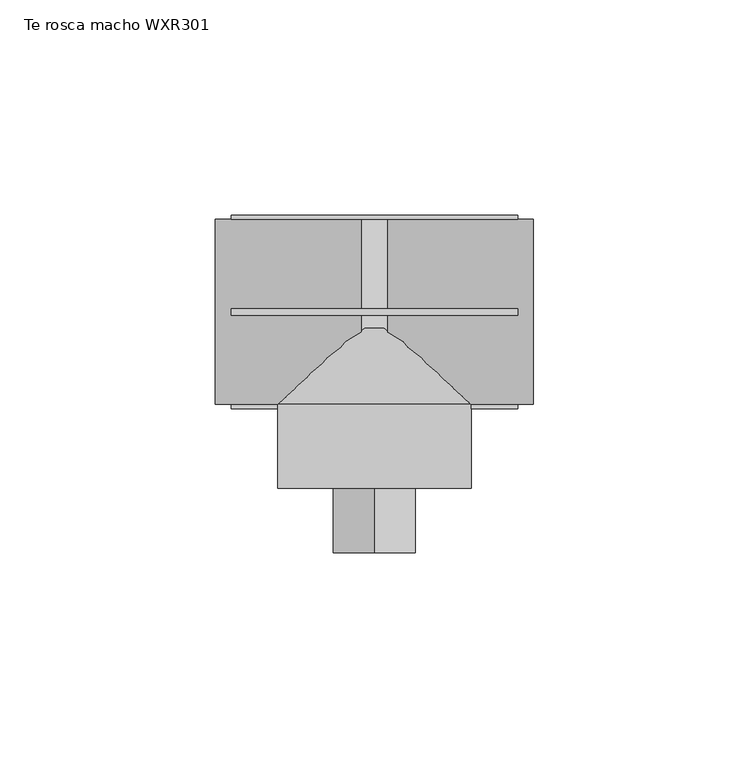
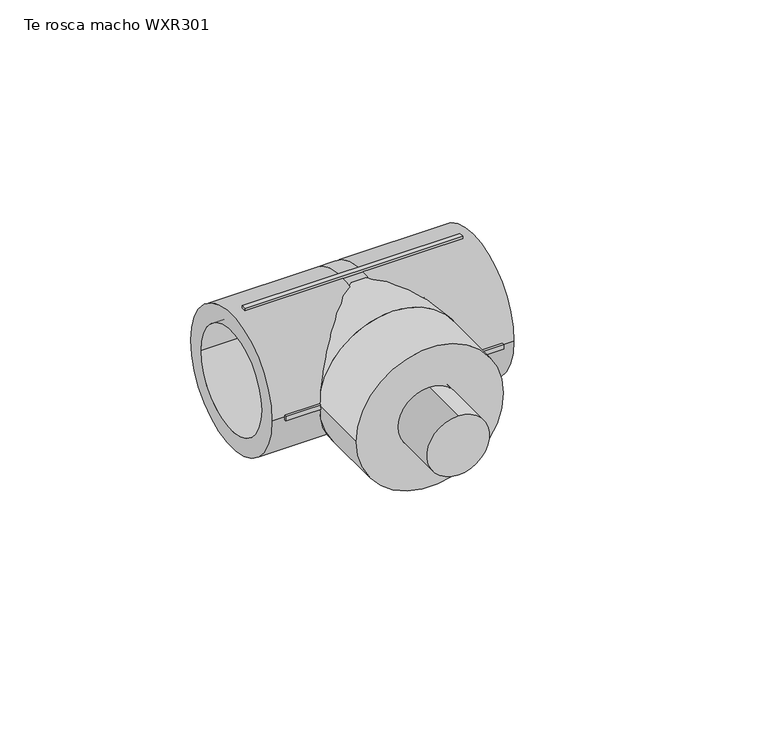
"""IFC4 building model written with IfcOpenShell, lengths in millimetres: pipe fitting geometry, EGB_VASEN_ PPR_Te rosca macho WXR301 : Te rosca macho WXR301."""

import ifcopenshell
import ifcopenshell.guid

model = None  # the IFC model being written
_history = None  # IfcOwnerHistory: only IFC2X3 demands one
_inside = {}  # id of a spatial element -> (the spatial element, [elements in it])
_under = {}  # id of a project, library or spatial element -> (it, [spatial elements below it])
_declared = {}  # id of a project -> (the project, [libraries it declares])
_typed = {}  # id of a type object -> (the type object, [elements of that type])
_made_of = {}  # id of a material, layer set ... -> (it, [elements and type objects made of it])


def new_model(schema):
    """Start an empty IFC model of exactly this schema.

    Asked for "IFC4X3", IfcOpenShell would pick the latest addendum, in which some entities
    have other attributes; the version numbers below select the first issue.
    IFC2X3 requires an IfcOwnerHistory on every rooted entity: one is made here for all.
    """
    global model, _history
    if schema == "IFC4X3":
        model = ifcopenshell.file(schema_version=(4, 3, 0, 0))
    else:
        model = ifcopenshell.file(schema=schema)
    _inside.clear()
    _under.clear()
    _declared.clear()
    _typed.clear()
    _made_of.clear()
    _history = None
    if model.schema == "IFC2X3":
        org = make("IfcOrganization", Name="unknown")
        user = make(
            "IfcPersonAndOrganization",
            ThePerson=make("IfcPerson", FamilyName="unknown"),
            TheOrganization=org,
        )
        app = make(
            "IfcApplication",
            ApplicationDeveloper=org,
            Version="unknown",
            ApplicationFullName="unknown",
            ApplicationIdentifier="unknown",
        )
        _history = make(
            "IfcOwnerHistory",
            OwningUser=user,
            OwningApplication=app,
            ChangeAction="ADDED",
            CreationDate=0,
        )
    return model


def make(cls, **values):
    """One entity of the class cls with the attributes given. An attribute that is None is left unset."""
    return model.create_entity(
        cls, **{name: value for name, value in values.items() if value is not None}
    )


def rooted(cls, **values):
    """An entity with a GlobalId (a new one), such as an element, a storey or a relation."""
    return make(cls, GlobalId=ifcopenshell.guid.new(), OwnerHistory=_history, **values)


def si_unit(unit_type, name, prefix=None):
    """IfcSIUnit, for example si_unit("LENGTHUNIT", "METRE", prefix="MILLI")."""
    return make("IfcSIUnit", UnitType=unit_type, Prefix=prefix, Name=name)


def assignment(units):
    """IfcUnitAssignment: the units of a project."""
    return None if units is None else make("IfcUnitAssignment", Units=units)


def point(xyz):
    """IfcCartesianPoint."""
    return None if xyz is None else make("IfcCartesianPoint", Coordinates=xyz)


def direction(xyz):
    """IfcDirection."""
    return None if xyz is None else make("IfcDirection", DirectionRatios=xyz)


def frame(location, z_axis=None, x_axis=None):
    """IfcAxis2Placement3D, a coordinate frame: its origin and axes. An axis left out is left unset."""
    return make(
        "IfcAxis2Placement3D",
        Location=point(location),
        Axis=direction(z_axis),
        RefDirection=direction(x_axis),
    )


def frame_2d(location, x_axis=None):
    """IfcAxis2Placement2D, a coordinate frame in the plane: its origin and x axis."""
    return make(
        "IfcAxis2Placement2D", Location=point(location), RefDirection=direction(x_axis)
    )


def origin():
    """The frame at (0, 0, 0) with its axes left unset."""
    return frame((0.0, 0.0, 0.0))


def origin_2d():
    """The frame at (0, 0) in the plane with its x axis left unset."""
    return frame_2d((0.0, 0.0))


def place(relative_to, where):
    """IfcLocalPlacement: puts the frame where relative to a parent placement (None: the world)."""
    return make(
        "IfcLocalPlacement", PlacementRelTo=relative_to, RelativePlacement=where
    )


def context(
    kind, dimensions, precision=None, world=None, true_north=None, identifier=None
):
    """IfcGeometricRepresentationContext, for example the 3D "Model" context."""
    return make(
        "IfcGeometricRepresentationContext",
        ContextIdentifier=identifier,
        ContextType=kind,
        CoordinateSpaceDimension=dimensions,
        Precision=precision,
        WorldCoordinateSystem=world,
        TrueNorth=true_north,
    )


def project(units=None, contexts=None):
    """IfcProject with its units and contexts."""
    return rooted(
        "IfcProject",
        Name="project",
        RepresentationContexts=contexts,
        UnitsInContext=assignment(units),
    )


def spatial(cls, under=None, at=None, **own):
    """A site, building, storey or space (cls), placed at a placement, below another one or the project."""
    s = rooted(cls, ObjectPlacement=at, **own)
    if under is not None:
        _under.setdefault(under.id(), (under, []))[1].append(s)
    return s


def polyline(points):
    """IfcPolyline through the points."""
    return make("IfcPolyline", Points=[point(p) for p in points])


def circle_curve(where, radius):
    """IfcCircle in the frame where."""
    return make("IfcCircle", Position=where, Radius=radius)


def trimmed(basis, trim1, trim2, sense, master):
    """IfcTrimmedCurve: the piece of a basis curve between two trims."""
    return make(
        "IfcTrimmedCurve",
        BasisCurve=basis,
        Trim1=trim1,
        Trim2=trim2,
        SenseAgreement=sense,
        MasterRepresentation=master,
    )


def segment(curve, same_sense, transition):
    """IfcCompositeCurveSegment."""
    return make(
        "IfcCompositeCurveSegment",
        Transition=transition,
        SameSense=same_sense,
        ParentCurve=curve,
    )


def composite_curve(segments, self_intersect=None):
    """IfcCompositeCurve: segments joined end to end."""
    return make("IfcCompositeCurve", Segments=segments, SelfIntersect=self_intersect)


def outline(outer, holes=None, kind="AREA"):
    """IfcArbitraryClosedProfileDef: a profile drawn as a closed curve; with holes, ...WithVoids."""
    if holes is None:
        return make("IfcArbitraryClosedProfileDef", ProfileType=kind, OuterCurve=outer)
    return make(
        "IfcArbitraryProfileDefWithVoids",
        ProfileType=kind,
        OuterCurve=outer,
        InnerCurves=holes,
    )


def extrude(swept, where, along, depth):
    """IfcExtrudedAreaSolid: the profile swept, set in the frame where, extruded along a direction by depth."""
    return make(
        "IfcExtrudedAreaSolid",
        SweptArea=swept,
        Position=where,
        ExtrudedDirection=direction(along),
        Depth=depth,
    )


def shape(context_of_items, identifier, shape_type, items):
    """IfcShapeRepresentation: the items that make up one representation, for example the "Body"."""
    return make(
        "IfcShapeRepresentation",
        ContextOfItems=context_of_items,
        RepresentationIdentifier=identifier,
        RepresentationType=shape_type,
        Items=items,
    )


def source(mapping_origin, context_of_items, identifier, shape_type, items):
    """IfcRepresentationMap: a shape defined once, which mapped items show again and again."""
    return make(
        "IfcRepresentationMap",
        MappingOrigin=mapping_origin,
        MappedRepresentation=shape(context_of_items, identifier, shape_type, items),
    )


def transform(
    local_origin,
    x_axis=None,
    y_axis=None,
    z_axis=None,
    scale=None,
    scale2=None,
    scale3=None,
    uniform=True,
):
    """IfcCartesianTransformationOperator3D, or its non-uniform kind. x_axis, y_axis, z_axis: its Axis1, 2, 3."""
    if uniform:
        return make(
            "IfcCartesianTransformationOperator3D",
            Axis1=direction(x_axis),
            Axis2=direction(y_axis),
            LocalOrigin=point(local_origin),
            Scale=scale,
            Axis3=direction(z_axis),
        )
    return make(
        "IfcCartesianTransformationOperator3DnonUniform",
        Axis1=direction(x_axis),
        Axis2=direction(y_axis),
        LocalOrigin=point(local_origin),
        Scale=scale,
        Axis3=direction(z_axis),
        Scale2=scale2,
        Scale3=scale3,
    )


def mapped(mapping_source, mapping_target):
    """IfcMappedItem: shows the shape of a source again, moved by a transform."""
    return make(
        "IfcMappedItem", MappingSource=mapping_source, MappingTarget=mapping_target
    )


def made_of(thing, what):
    """Note that an element or type object is made of a material, layer set ...; save() writes the relation."""
    if what is not None:
        _made_of.setdefault(what.id(), (what, []))[1].append(thing)
    return thing


def element(
    cls,
    number,
    at=None,
    inside=None,
    cuts=None,
    type_object=None,
    material=None,
    context=None,
    identifier="Body",
    shape_type=None,
    held_by="IfcProductDefinitionShape",
    body=None,
    shapes=None,
    **own,
):
    """One element of the class cls, such as IfcWall. Its Tag is "e" and its number.

    at: its placement. inside: the storey or other place that contains it. cuts: it is an
    opening in that element (IfcRelVoidsElement). A single representation is given by context,
    identifier, shape_type and body (its items); several are given by shapes. held_by: the class
    of the entity that holds the representations. save() writes the other relations.
    """
    e = rooted(cls, Tag="e%d" % number, ObjectPlacement=at, **own)
    if body is not None:
        shapes = [shape(context, identifier, shape_type, body)]
    if shapes is not None:
        e.Representation = make(held_by, Representations=shapes)
    if inside is not None:
        _inside.setdefault(inside.id(), (inside, []))[1].append(e)
    if cuts is not None:
        rooted(
            "IfcRelVoidsElement", RelatingBuildingElement=cuts, RelatedOpeningElement=e
        )
    if type_object is not None:
        _typed.setdefault(type_object.id(), (type_object, []))[1].append(e)
    return made_of(e, material)


def aggregate(whole, parts):
    """IfcRelAggregates: a whole, such as a stair, and the parts it consists of."""
    return rooted("IfcRelAggregates", RelatingObject=whole, RelatedObjects=parts)


def save(model, path):
    """Write the relations noted so far, then the file.

    IfcRelAggregates (storeys below a building ...), IfcRelContainedInSpatialStructure (elements
    in a storey), IfcRelDefinesByType, IfcRelAssociatesMaterial and IfcRelDeclares: one each for
    every whole, place, type object, material and project.
    """
    for whole, parts in _under.values():
        aggregate(whole, parts)
    for where, things in _inside.values():
        rooted(
            "IfcRelContainedInSpatialStructure",
            RelatedElements=things,
            RelatingStructure=where,
        )
    for kind, things in _typed.values():
        rooted("IfcRelDefinesByType", RelatedObjects=things, RelatingType=kind)
    for what, things in _made_of.values():
        rooted("IfcRelAssociatesMaterial", RelatedObjects=things, RelatingMaterial=what)
    for by, libraries in _declared.values():
        rooted("IfcRelDeclares", RelatingContext=by, RelatedDefinitions=libraries)
    model.write(path)


def plane_surface(at):
    """IfcPlane: the flat surface through the origin of the frame at, square to its z axis."""
    return make("IfcPlane", Position=at)


def cylinder_surface(at, radius):
    """IfcCylindricalSurface: all points at the distance radius from the z axis of the frame at."""
    return make("IfcCylindricalSurface", Position=at, Radius=radius)


def revolved_surface(curve, axis_point, axis_direction):
    """IfcSurfaceOfRevolution: the curve turned about the line through axis_point along axis_direction."""
    return make(
        "IfcSurfaceOfRevolution",
        SweptCurve=make("IfcArbitraryOpenProfileDef", ProfileType="CURVE", Curve=curve),
        AxisPosition=make("IfcAxis1Placement", Location=point(axis_point), Axis=direction(axis_direction)),
    )


def advanced_brep(points, edges, surfaces, faces):
    """IfcAdvancedBrep: a solid bounded by faces that lie on surfaces and meet in shared edges.

    An edge is (start, end): straight between two places in points (the first is 0);
    or (start, end, curve); or (start, end, curve, False) where it runs against its curve.
    A face is (place in surfaces, loops), or (place, loops, False) where it looks against
    its surface's normal. A loop lists edges by number (the first is 1), with a minus sign
    where the edge is run from its end to its start. The first loop is the outer one.
    """
    corners = [point(p) for p in points]
    vertices = [make("IfcVertexPoint", VertexGeometry=c) for c in corners]
    made = []
    for start, end, *more in edges:
        made.append(
            make(
                "IfcEdgeCurve",
                EdgeStart=vertices[start],
                EdgeEnd=vertices[end],
                EdgeGeometry=more[0] if more else make("IfcPolyline", Points=[corners[start], corners[end]]),
                SameSense=more[1] if len(more) > 1 else True,
            )
        )
    hull = []
    for where, loops, *sense in faces:
        bounds = []
        for j, loop in enumerate(loops):
            ring = [make("IfcOrientedEdge", EdgeElement=made[abs(k) - 1], Orientation=k > 0) for k in loop]
            bounds.append(
                make(
                    "IfcFaceOuterBound" if j == 0 else "IfcFaceBound",
                    Bound=make("IfcEdgeLoop", EdgeList=ring),
                    Orientation=True,
                )
            )
        hull.append(make("IfcAdvancedFace", Bounds=bounds, FaceSurface=surfaces[where], SameSense=sense[0] if sense else True))
    return make("IfcAdvancedBrep", Outer=make("IfcClosedShell", CfsFaces=hull))


def te_rosca_macho_wxr301_3f0b292e(model_context):
    return source(origin(), model_context, "Body", "SolidModel", [
        extrude(outline(composite_curve([segment(trimmed(circle_curve(origin_2d(), 9.525), [point((-9.525, 0.0))], [point((9.525, 0.0))], False, "CARTESIAN"), True, "CONTINUOUS"), segment(trimmed(circle_curve(origin_2d(), 9.525), [point((9.525, 0.0))], [point((-9.525, 0.0))], False, "CARTESIAN"), True, "CONTINUOUS")], self_intersect=False)), frame((0.0, -56.0, 0.0), z_axis=(0.0, 1.0, 0.0), x_axis=(0.0, 0.0, 1.0)), (0.0, 0.0, 1.0), 33.5),
        advanced_brep(
        [(2.96, -16.0, 0.0), (2.96, 16.0, 0.0), (-2.96, 16.0, 0.0), (-2.96, -16.0, 0.0), (-2.96, 21.5, 0.0), (2.96, 21.5, 0.0), (2.96, -21.5, 0.0), (-2.96, -21.5, 0.0), (37.0, -21.5, 0.0), (37.0, 21.5, 0.0), (37.0, -16.0, 0.0), (37.0, 16.0, 0.0), (-37.0, -21.5, 0.0), (-37.0, 21.5, 0.0), (-37.0, -16.0, 0.0), (-37.0, 16.0, 0.0)],
        [
            (0, 1, circle_curve(frame((2.96, 0.0, 0.0), z_axis=(1.0, 0.0, 0.0), x_axis=(0.0, 1.0, 0.0)), 16.0)),
            (1, 0, circle_curve(frame((2.96, 0.0, 0.0), z_axis=(1.0, 0.0, 0.0), x_axis=(0.0, 1.0, 0.0)), 16.0)),
            (2, 3, circle_curve(frame((-2.96, 0.0, 0.0), z_axis=(-1.0, 0.0, 0.0), x_axis=(0.0, 1.0, 0.0)), 16.0)),
            (3, 2, circle_curve(frame((-2.96, 0.0, 0.0), z_axis=(-1.0, 0.0, 0.0), x_axis=(0.0, 1.0, 0.0)), 16.0)),
            (4, 5),
            (5, 6, circle_curve(frame((2.96, 0.0, 0.0), z_axis=(-1.0, 0.0, 0.0), x_axis=(0.0, 0.0, -1.0)), 21.5)),
            (6, 7),
            (7, 4, circle_curve(frame((-2.96, 0.0, 0.0), z_axis=(1.0, 0.0, 0.0), x_axis=(0.0, 0.0, -1.0)), 21.5)),
            (4, 7, circle_curve(frame((-2.96, 0.0, 0.0), z_axis=(1.0, 0.0, 0.0), x_axis=(0.0, 0.0, 1.0)), 21.5)),
            (6, 5, circle_curve(frame((2.96, 0.0, 0.0), z_axis=(-1.0, 0.0, 0.0), x_axis=(0.0, 0.0, 1.0)), 21.5)),
            (8, 9, circle_curve(frame((37.0, 0.0, 0.0), z_axis=(1.0, 0.0, 0.0), x_axis=(0.0, 1.0, 0.0)), 21.5)),
            (9, 8, circle_curve(frame((37.0, 0.0, 0.0), z_axis=(1.0, 0.0, 0.0), x_axis=(0.0, 1.0, 0.0)), 21.5)),
            (10, 11, circle_curve(frame((37.0, 0.0, 0.0), z_axis=(-1.0, 0.0, 0.0), x_axis=(0.0, 1.0, 0.0)), 16.0)),
            (11, 10, circle_curve(frame((37.0, 0.0, 0.0), z_axis=(-1.0, 0.0, 0.0), x_axis=(0.0, 1.0, 0.0)), 16.0)),
            (9, 5),
            (6, 8),
            (11, 1),
            (0, 10),
            (12, 13, circle_curve(frame((-37.0, 0.0, 0.0), z_axis=(-1.0, 0.0, 0.0), x_axis=(0.0, 1.0, 0.0)), 21.5)),
            (13, 12, circle_curve(frame((-37.0, 0.0, 0.0), z_axis=(-1.0, 0.0, 0.0), x_axis=(0.0, 1.0, 0.0)), 21.5)),
            (14, 15, circle_curve(frame((-37.0, 0.0, 0.0), z_axis=(1.0, 0.0, 0.0), x_axis=(0.0, 1.0, 0.0)), 16.0)),
            (15, 14, circle_curve(frame((-37.0, 0.0, 0.0), z_axis=(1.0, 0.0, 0.0), x_axis=(0.0, 1.0, 0.0)), 16.0)),
            (12, 7),
            (4, 13),
            (14, 3),
            (2, 15),
        ],
        [
            plane_surface(frame((2.96, 0.0, 0.0), z_axis=(1.0, 0.0, 0.0), x_axis=(0.0, 0.0, -1.0))),
            plane_surface(frame((-2.96, 0.0, 0.0), z_axis=(-1.0, 0.0, 0.0), x_axis=(0.0, 0.0, -1.0))),
            cylinder_surface(frame((-2.96, 0.0, 0.0), z_axis=(1.0, 0.0, 0.0), x_axis=(0.0, 0.0, -1.0)), 21.5),
            cylinder_surface(frame((-2.96, 0.0, 0.0), z_axis=(1.0, 0.0, 0.0), x_axis=(0.0, 0.0, 1.0)), 21.5),
            plane_surface(frame((37.0, 0.0, 0.0), z_axis=(1.0, 0.0, 0.0), x_axis=(0.0, 0.0, 1.0))),
            cylinder_surface(frame((2.96, 0.0, 0.0), z_axis=(-1.0, 0.0, 0.0), x_axis=(0.0, 1.0, 0.0)), 21.5),
            revolved_surface(polyline([(37.0, 16.0, 0.0), (2.96, 16.0, 0.0)]), (2.96, 0.0, 0.0), (1.0, 0.0, 0.0)),
            plane_surface(frame((-37.0, 0.0, 0.0), z_axis=(-1.0, 0.0, 0.0), x_axis=(0.0, 0.0, 1.0))),
            cylinder_surface(frame((-37.0, 0.0, 0.0), z_axis=(-1.0, 0.0, 0.0), x_axis=(0.0, 1.0, 0.0)), 21.5),
            revolved_surface(polyline([(-2.960000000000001, 16.0, 0.0), (-37.0, 16.0, 0.0)]), (-37.0, 0.0, 0.0), (1.0, 0.0, 0.0)),
        ],
        [
            (0, [[1, 2]]),
            (1, [[3, 4]]),
            (2, [[5, 6, 7, 8]]),
            (3, [[-5, 9, -7, 10]]),
            (4, [[11, 12], [13, 14]]),
            (5, [[-12, 15, -10, 16]]),
            (5, [[-11, -16, -6, -15]]),
            (6, [[-14, 17, -1, 18]]),
            (6, [[-13, -18, -2, -17]]),
            (7, [[19, 20], [21, 22]]),
            (8, [[-19, 23, -9, 24]]),
            (8, [[-20, -24, -8, -23]]),
            (9, [[-21, 25, -3, 26]]),
            (9, [[-22, -26, -4, -25]]),
        ],
    ),
        extrude(outline(composite_curve([segment(trimmed(circle_curve(origin_2d(), 22.5), [point((0.0, 22.5))], [point((0.0, -22.5))], False, "CARTESIAN"), True, "CONTINUOUS"), segment(trimmed(circle_curve(origin_2d(), 22.5), [point((0.0, -22.5))], [point((0.0, 22.5))], False, "CARTESIAN"), True, "CONTINUOUS")], self_intersect=False), holes=[composite_curve([segment(trimmed(circle_curve(origin_2d(), 9.525), [point((0.0, 9.525))], [point((0.0, -9.525))], True, "CARTESIAN"), True, "CONTINUOUS"), segment(trimmed(circle_curve(origin_2d(), 9.525), [point((0.0, -9.525))], [point((0.0, 9.525))], True, "CARTESIAN"), True, "CONTINUOUS")], self_intersect=False)]), frame((0.0, -41.0, 0.0), z_axis=(0.0, 1.0, 0.0), x_axis=(0.0, 0.0, 1.0)), (0.0, 0.0, 1.0), 19.5),
        advanced_brep(
        [(21.5, 0.0, 0.0), (-21.5, 0.0, 0.0), (22.5, -21.5, 0.0), (-22.5, -21.5, 0.0)],
        [
            (0, 1, circle_curve(frame((0.0, 0.0, 0.0), z_axis=(0.0, 1.0, 0.0), x_axis=(1.0, 0.0, 0.0)), 21.5)),
            (1, 0, circle_curve(frame((0.0, 0.0, 0.0), z_axis=(0.0, 1.0, 0.0), x_axis=(-1.0, 0.0, 0.0)), 21.5)),
            (2, 3, circle_curve(frame((0.0, -21.5, 0.0), z_axis=(0.0, -1.0, 0.0), x_axis=(-1.0, 0.0, 0.0)), 22.5)),
            (3, 2, circle_curve(frame((0.0, -21.5, 0.0), z_axis=(0.0, -1.0, 0.0), x_axis=(1.0, 0.0, 0.0)), 22.5)),
            (3, 1),
            (0, 2),
        ],
        [
            plane_surface(frame((0.0, 0.0, 0.0), z_axis=(0.0, 1.0, 0.0), x_axis=(0.0, 0.0, -1.0))),
            plane_surface(frame((0.0, -21.5, 0.0), z_axis=(0.0, -1.0, 0.0), x_axis=(0.0, 0.0, -1.0))),
            revolved_surface(polyline([(21.5, 0.0, 0.0), (22.5, -21.5, 0.0)]), (0.0, 462.25, 0.0), (0.0, -1.0, 0.0)),
            revolved_surface(polyline([(-21.5, 0.0, 0.0), (-22.5, -21.5, 0.0)]), (0.0, 462.25, 0.0), (0.0, -1.0, 0.0)),
        ],
        [
            (0, [[1, 2]]),
            (1, [[3, 4]]),
            (2, [[-4, 5, -1, 6]]),
            (3, [[-3, -6, -2, -5]]),
        ],
    ),
        extrude(outline(polyline([(33.3, 0.75), (33.3, -0.75), (-33.3, -0.75), (-33.3, 0.75), (33.3, 0.75)])), frame((0.0, 0.0, 20.5), z_axis=(0.0, 0.0, 1.0), x_axis=(1.0, 0.0, 0.0)), (0.0, 0.0, 1.0), 2.0),
        extrude(outline(polyline([(33.3, 0.75), (33.3, -0.75), (-33.3, -0.75), (-33.3, 0.75), (33.3, 0.75)])), frame((0.0, 0.0, -22.5), z_axis=(0.0, 0.0, 1.0), x_axis=(1.0, 0.0, 0.0)), (0.0, 0.0, 1.0), 2.0),
        extrude(outline(polyline([(33.3, 22.5), (33.3, 20.5), (-33.3, 20.5), (-33.3, 22.5), (33.3, 22.5)])), frame((0.0, 0.0, -0.75), z_axis=(0.0, 0.0, 1.0), x_axis=(1.0, 0.0, 0.0)), (0.0, 0.0, 1.0), 1.5),
        extrude(outline(polyline([(33.3, -20.5), (33.3, -22.5), (-33.3, -22.5), (-33.3, -20.5), (33.3, -20.5)])), frame((0.0, 0.0, -0.75), z_axis=(0.0, 0.0, 1.0), x_axis=(1.0, 0.0, 0.0)), (0.0, 0.0, 1.0), 1.5),
    ])


if __name__ == "__main__":
    model = new_model("IFC4")
    model_context = context("Model", 3, world=origin())
    ifc_project = project(units=[si_unit("LENGTHUNIT", "METRE", prefix="MILLI")], contexts=[model_context])
    site = spatial("IfcSite", under=ifc_project)
    building = spatial("IfcBuilding", under=site)
    placement = place(None, origin())
    te_rosca_macho_wxr301_shape = te_rosca_macho_wxr301_3f0b292e(model_context)
    element("IfcPipeFitting", 1, ObjectType="EGB_VASEN_ PPR_Te rosca macho WXR301 : Te rosca macho WXR301", at=placement, inside=building, context=model_context, shape_type="MappedRepresentation", body=[
        mapped(te_rosca_macho_wxr301_shape, transform((0.0, 0.0, 0.0), x_axis=(1.0, 0.0, 0.0), y_axis=(0.0, 1.0, 0.0), z_axis=(0.0, 0.0, 1.0))),
    ])
    save(model, "model.ifc")
